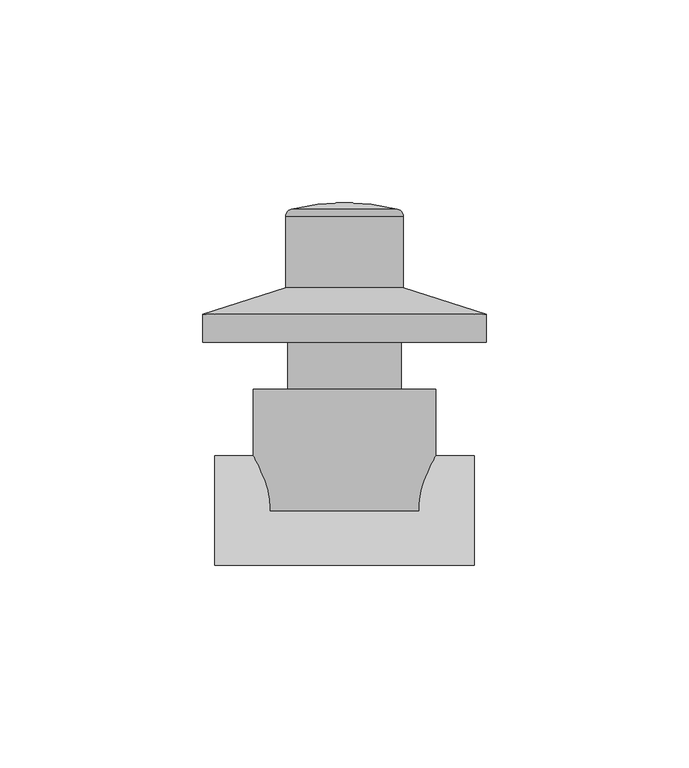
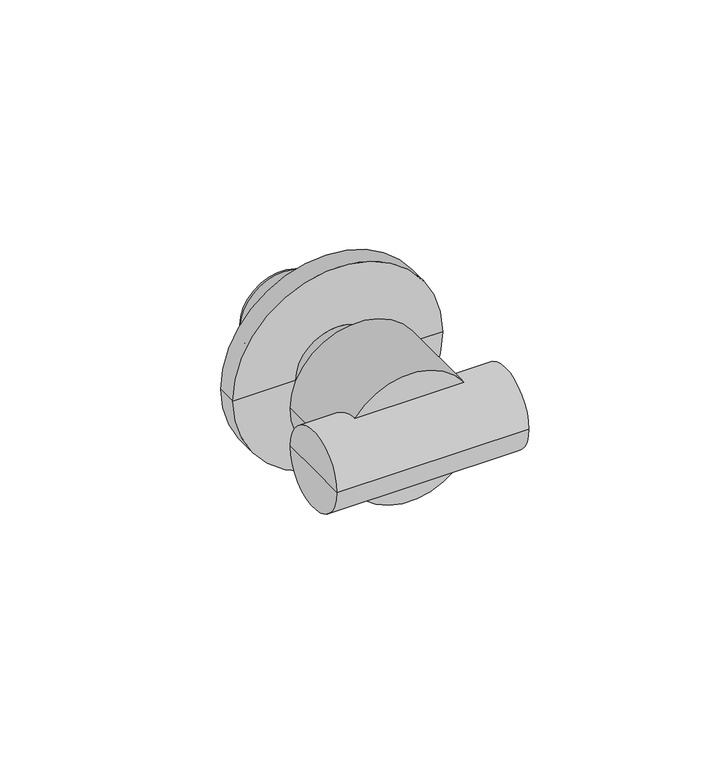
"""IFC4 building model written with IfcOpenShell, lengths in millimetres: valve geometry, KAN-therm PP zawór odcinający grzybkowy podtynkowy z maskownicą : KAN-therm PP zawór odcinający grzybkowy podtynkowy z maskownicą."""

from ifc_helpers import new_model, si_unit, point, frame, origin, place, context, project, spatial, polyline, circle_curve, ellipse_curve, trimmed, source, transform, mapped, element, save
from ifc_brep_helpers import plane_surface, cylinder_surface, revolved_surface, advanced_brep


def valve_2c2c3ae2(model_context):
    return source(origin(), model_context, "Body", "AdvancedBrep", [
        advanced_brep(
        [(-14.0, 41.5, 0.0), (14.0, 41.5, 0.0), (14.0, 30.0, 0.0), (-14.0, 30.0, 0.0), (0.0, 30.0, 0.0), (-35.0, 41.5, 0.0), (35.0, 41.5, 0.0), (-35.0, 48.5, 0.0), (35.0, 48.5, 0.0), (-14.5, 55.0, 0.0), (14.5, 55.0, 0.0), (-14.5, 72.5597769, 0.0), (14.5, 72.5597769, 0.0), (-13.0833376, 74.3775393, 0.0), (13.0833376, 74.3775393, 0.0), (0.0, 76.0, 0.0)],
        [
            (0, 1, circle_curve(frame((0.0, 41.5, 0.0), z_axis=(0.0, -1.0, 0.0), x_axis=(1.0, 0.0, 0.0)), 14.0)),
            (1, 2),
            (2, 3, circle_curve(frame((0.0, 30.0, 0.0), z_axis=(0.0, 1.0, 0.0), x_axis=(1.0, 0.0, 0.0)), 14.0)),
            (3, 0),
            (1, 0, circle_curve(frame((0.0, 41.5, 0.0), z_axis=(0.0, -1.0, 0.0), x_axis=(1.0, 0.0, 0.0)), 14.0)),
            (3, 2, circle_curve(frame((0.0, 30.0, 0.0), z_axis=(0.0, 1.0, 0.0), x_axis=(1.0, 0.0, 0.0)), 14.0)),
            (2, 4),
            (4, 3),
            (5, 6, circle_curve(frame((0.0, 41.5, 0.0), z_axis=(0.0, -1.0, 0.0), x_axis=(1.0, 0.0, 0.0)), 35.0)),
            (6, 1),
            (0, 5),
            (6, 5, circle_curve(frame((0.0, 41.5, 0.0), z_axis=(0.0, -1.0, 0.0), x_axis=(1.0, 0.0, 0.0)), 35.0)),
            (7, 8, circle_curve(frame((0.0, 48.5, 0.0), z_axis=(0.0, -1.0, 0.0), x_axis=(1.0, 0.0, 0.0)), 35.0)),
            (8, 6),
            (5, 7),
            (8, 7, circle_curve(frame((0.0, 48.5, 0.0), z_axis=(0.0, -1.0, 0.0), x_axis=(1.0, 0.0, 0.0)), 35.0)),
            (9, 10, circle_curve(frame((0.0, 55.0, 0.0), z_axis=(0.0, -1.0, 0.0), x_axis=(1.0, 0.0, 0.0)), 14.5)),
            (10, 8),
            (7, 9),
            (10, 9, circle_curve(frame((0.0, 55.0, 0.0), z_axis=(0.0, -1.0, 0.0), x_axis=(1.0, 0.0, 0.0)), 14.5)),
            (11, 12, circle_curve(frame((0.0, 72.5597769, 0.0), z_axis=(0.0, -1.0, 0.0), x_axis=(1.0, 0.0, 0.0)), 14.5)),
            (12, 10),
            (9, 11),
            (12, 11, circle_curve(frame((0.0, 72.5597769, 0.0), z_axis=(0.0, -1.0, 0.0), x_axis=(1.0, 0.0, 0.0)), 14.5)),
            (13, 14, circle_curve(frame((0.0, 74.3775393, 0.0), z_axis=(0.0, -1.0, 0.0), x_axis=(1.0, 0.0, 0.0)), 13.0833376)),
            (14, 12, circle_curve(frame((12.6254558, 72.5597769, 0.0), z_axis=(0.0, 0.0, -1.0), x_axis=(1.0, 0.0, 0.0)), 1.8745442)),
            (11, 13, circle_curve(frame((-12.6254558, 72.5597769, 0.0), z_axis=(0.0, 0.0, -1.0), x_axis=(-1.0, 0.0, 0.0)), 1.8745442)),
            (14, 13, circle_curve(frame((0.0, 74.3775393, 0.0), z_axis=(0.0, -1.0, 0.0), x_axis=(1.0, 0.0, 0.0)), 13.0833376)),
            (15, 14, circle_curve(frame((0.0, 22.4375, 0.0), z_axis=(0.0, 0.0, -1.0), x_axis=(1.0, 0.0, 0.0)), 53.5625)),
            (13, 15, circle_curve(frame((0.0, 22.4375, 0.0), z_axis=(0.0, 0.0, -1.0), x_axis=(-1.0, 0.0, 0.0)), 53.5625)),
        ],
        [
            cylinder_surface(frame((0.0, 2000.0, 0.0), z_axis=(0.0, 1.0, 0.0), x_axis=(1.0, 0.0, 0.0)), 14.0),
            plane_surface(frame((0.0, 30.0, 0.0), z_axis=(0.0, -1.0, 0.0), x_axis=(1.0, 0.0, 0.0))),
            plane_surface(frame((0.0, 41.5, 0.0), z_axis=(0.0, -1.0, 0.0), x_axis=(1.0, 0.0, 0.0))),
            cylinder_surface(frame((0.0, 2000.0, 0.0), z_axis=(0.0, 1.0, 0.0), x_axis=(1.0, 0.0, 0.0)), 35.0),
            revolved_surface(polyline([(35.0, 48.5, 0.0), (14.5, 55.0, 0.0)]), (0.0, 2000.0, 0.0), (0.0, 1.0, 0.0)),
            cylinder_surface(frame((0.0, 2000.0, 0.0), z_axis=(0.0, 1.0, 0.0), x_axis=(1.0, 0.0, 0.0)), 14.5),
            revolved_surface(trimmed(ellipse_curve(frame((12.6254558, 72.5597769, 0.0), z_axis=(0.0, 0.0, 1.0), x_axis=(1.0, 0.0, 0.0)), 1.8745442, 1.8745442), [point((14.5, 72.5597769, 0.0))], [point((13.0833376, 74.3775393, 0.0))], True, "CARTESIAN"), (0.0, 2000.0, 0.0), (0.0, 1.0, 0.0)),
            revolved_surface(trimmed(ellipse_curve(frame((0.0, 22.4375, 0.0), z_axis=(0.0, 0.0, 1.0), x_axis=(1.0, 0.0, 0.0)), 53.5625, 53.5625), [point((13.0833376, 74.3775393, 0.0))], [point((0.0, 76.0, 0.0))], True, "CARTESIAN"), (0.0, 2000.0, 0.0), (0.0, 1.0, 0.0)),
        ],
        [
            (0, [[1, 2, 3, 4]]),
            (0, [[5, -4, 6, -2]]),
            (1, [[-3, 7, 8]]),
            (1, [[-6, -8, -7]]),
            (2, [[9, 10, -1, 11]]),
            (2, [[12, -11, -5, -10]]),
            (3, [[13, 14, -9, 15]]),
            (3, [[16, -15, -12, -14]]),
            (4, [[17, 18, -13, 19]]),
            (4, [[20, -19, -16, -18]]),
            (5, [[21, 22, -17, 23]]),
            (5, [[24, -23, -20, -22]]),
            (6, [[25, 26, -21, 27]]),
            (6, [[28, -27, -24, -26]]),
            (7, [[29, -25, 30]]),
            (7, [[-30, -28, -29]]),
        ],
    ),
        advanced_brep(
        [(-22.5, 30.0, 0.0), (22.5, 30.0, 0.0), (22.5, 0.0, 0.0), (-22.5, 0.0, 0.0), (0.0, 30.0, 0.0), (0.0, 0.0, 0.0)],
        [
            (0, 1, circle_curve(frame((0.0, 30.0, 0.0), z_axis=(0.0, -1.0, 0.0), x_axis=(1.0, 0.0, 0.0)), 22.5)),
            (1, 2),
            (2, 3, circle_curve(frame((0.0, 0.0, 0.0), z_axis=(0.0, 1.0, 0.0), x_axis=(1.0, 0.0, 0.0)), 22.5)),
            (3, 0),
            (1, 0, circle_curve(frame((0.0, 30.0, 0.0), z_axis=(0.0, -1.0, 0.0), x_axis=(1.0, 0.0, 0.0)), 22.5)),
            (3, 2, circle_curve(frame((0.0, 0.0, 0.0), z_axis=(0.0, 1.0, 0.0), x_axis=(1.0, 0.0, 0.0)), 22.5)),
            (4, 1),
            (0, 4),
            (2, 5),
            (5, 3),
        ],
        [
            cylinder_surface(frame((0.0, 2003.0, 0.0), z_axis=(0.0, 1.0, 0.0), x_axis=(1.0, 0.0, 0.0)), 22.5),
            plane_surface(frame((0.0, 30.0, 0.0), z_axis=(0.0, 1.0, 0.0), x_axis=(1.0, 0.0, 0.0))),
            plane_surface(frame((0.0, 0.0, 0.0), z_axis=(0.0, -1.0, 0.0), x_axis=(1.0, 0.0, 0.0))),
        ],
        [
            (0, [[1, 2, 3, 4]]),
            (0, [[5, -4, 6, -2]]),
            (1, [[7, -1, 8]]),
            (1, [[-8, -5, -7]]),
            (2, [[-3, 9, 10]]),
            (2, [[-6, -10, -9]]),
        ],
    ),
        advanced_brep(
        [(32.0, 0.0, 0.0), (32.0, -13.5, 0.0), (32.0, 13.5, 0.0), (-32.0, 13.5, 0.0), (-32.0, -13.5, 0.0), (-32.0, 0.0, 0.0)],
        [
            (0, 1),
            (1, 2, circle_curve(frame((32.0, 0.0, 0.0), z_axis=(1.0, 0.0, 0.0), x_axis=(0.0, -1.0, 0.0)), 13.5)),
            (2, 0),
            (2, 1, circle_curve(frame((32.0, 0.0, 0.0), z_axis=(1.0, 0.0, 0.0), x_axis=(0.0, -1.0, 0.0)), 13.5)),
            (3, 4, circle_curve(frame((-32.0, 0.0, 0.0), z_axis=(-1.0, 0.0, 0.0), x_axis=(0.0, -1.0, 0.0)), 13.5)),
            (4, 5),
            (5, 3),
            (4, 3, circle_curve(frame((-32.0, 0.0, 0.0), z_axis=(-1.0, 0.0, 0.0), x_axis=(0.0, -1.0, 0.0)), 13.5)),
            (1, 4),
            (3, 2),
        ],
        [
            plane_surface(frame((32.0, 0.0, 0.0), z_axis=(1.0, 0.0, 0.0), x_axis=(0.0, -1.0, 0.0))),
            plane_surface(frame((-32.0, 0.0, 0.0), z_axis=(-1.0, 0.0, 0.0), x_axis=(0.0, -1.0, 0.0))),
            cylinder_surface(frame((2004.5, 0.0, 0.0), z_axis=(1.0, 0.0, 0.0), x_axis=(0.0, -1.0, 0.0)), 13.5),
        ],
        [
            (0, [[1, 2, 3]]),
            (0, [[-3, 4, -1]]),
            (1, [[5, 6, 7]]),
            (1, [[8, -7, -6]]),
            (2, [[-2, 9, -5, 10]]),
            (2, [[-4, -10, -8, -9]]),
        ],
    ),
    ])


if __name__ == "__main__":
    model = new_model("IFC4")
    model_context = context("Model", 3, world=origin())
    ifc_project = project(units=[si_unit("LENGTHUNIT", "METRE", prefix="MILLI")], contexts=[model_context])
    site = spatial("IfcSite", under=ifc_project)
    building = spatial("IfcBuilding", under=site)
    placement = place(None, origin())
    valve_shape = valve_2c2c3ae2(model_context)
    element("IfcValve", 1, ObjectType="KAN-therm PP zawór odcinający grzybkowy podtynkowy z maskownicą : KAN-therm PP zawór odcinający grzybkowy podtynkowy z maskownicą", at=placement, inside=building, context=model_context, shape_type="MappedRepresentation", body=[
        mapped(valve_shape, transform((0.0, 0.0, 0.0), x_axis=(1.0, 0.0, 0.0), y_axis=(0.0, 1.0, 0.0), z_axis=(0.0, 0.0, 1.0))),
    ])
    save(model, "model.ifc")
